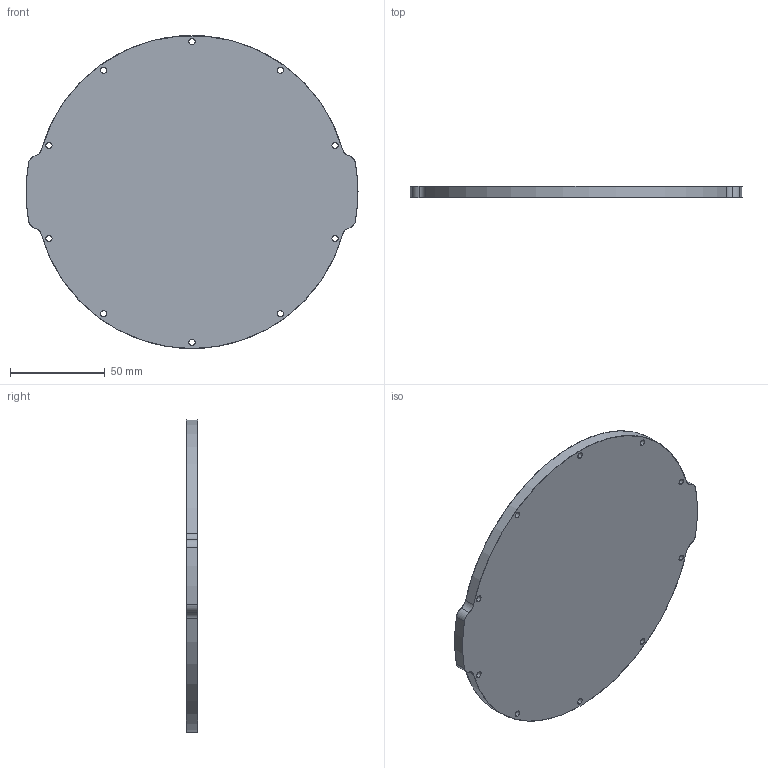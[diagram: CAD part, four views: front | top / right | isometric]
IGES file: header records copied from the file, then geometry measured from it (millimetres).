
Start section: SolidWorks IGES file using analytic representation for surfaces
Global section: file name: C:\Users\Jonathan\Dropbox\BR-Engineering\Models\WTE6-X1A-PUBLIC\WTE6-M-END-CAP-R1.IGS; native system: SolidWorks 2014; preprocessor: SolidWorks 2014; author: Jonathan; date: 170111.142002; units: millimetre
Bounding box: 175.1 x 6 x 165.1 mm (x, y, z)
Surface area: 47217.5 mm2 (no closed solid volume)
Topology: 0 solids, 0 shells, 35 faces, 660 edges, 660 vertices
Faces by surface type: revolution 33, bspline 2
